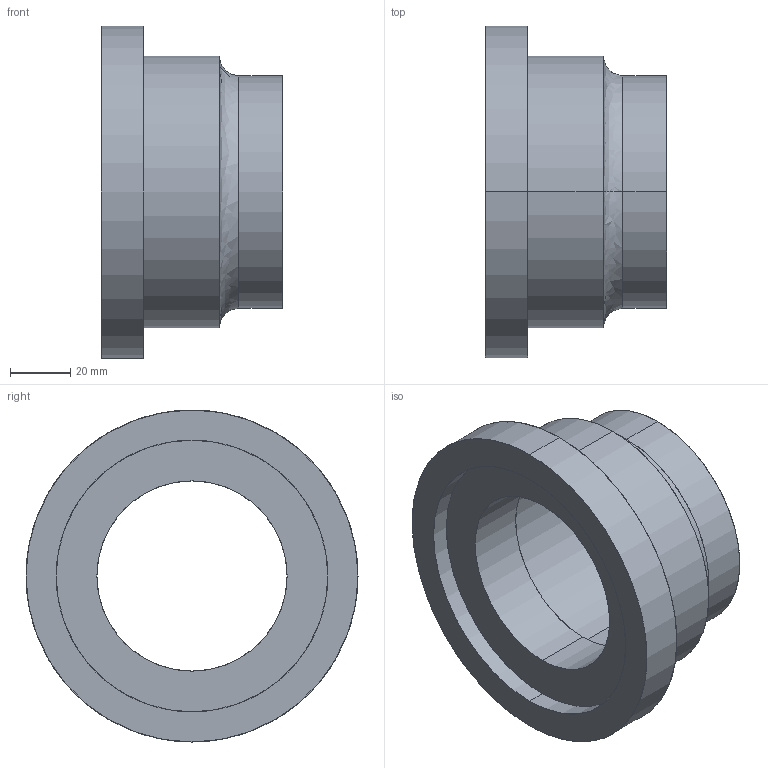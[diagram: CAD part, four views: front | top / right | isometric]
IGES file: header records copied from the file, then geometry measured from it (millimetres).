
Start section: SolidWorks IGES file using analytic representation for surfaces
Global section: file name: \\Datacenterrd1\@研發部\設計一課(冷媒)\(1)-文管中心\(2)-3D文管\(8)-Compressor 3Doutline(Surface)\Pipe\IGS\2 1-2(2 5-8銅管用).IGS; native system: SolidWorks 2013; preprocessor: SolidWorks 2013; author: hedylu; date: 140715.084328; units: millimetre
Bounding box: 60 x 110 x 110 mm (x, y, z)
Surface area: 41573.4 mm2 (no closed solid volume)
Topology: 0 solids, 0 shells, 23 faces, 712 edges, 712 vertices
Faces by surface type: revolution 14, bspline 9
